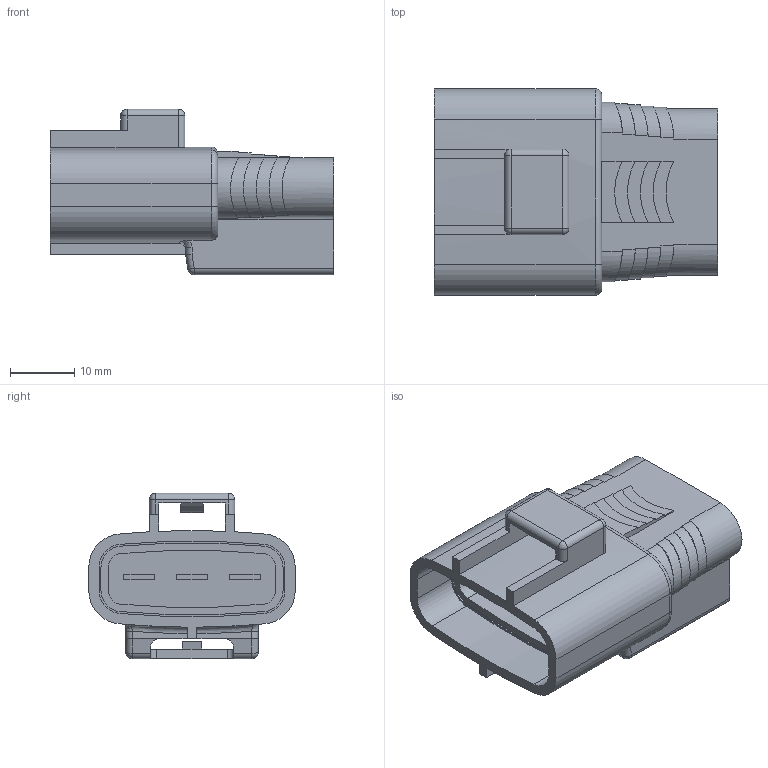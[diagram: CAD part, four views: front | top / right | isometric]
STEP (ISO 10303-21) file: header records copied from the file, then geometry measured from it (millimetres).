
FILE_DESCRIPTION(('CATIA V5 STEP Exchange'),'2;1');
FILE_NAME('N:\C-DAM_MyDesk\ENV\900093\6188-0129.stp','2013-10-08T08:38:17+00:00',('none'),('none'),'CATIA Version 5 Release 20 SP 4 (IN-10)','CATIA V5 STEP AP203','none');
FILE_SCHEMA(('CONFIG_CONTROL_DESIGN'));
Length unit declared in the file: millimetre
Products named in the file (1): 6188-0129
Bounding box: 44 x 32.1 x 25.7 mm (x, y, z)
Volume: 14845.6 mm3; surface area: 6992.7 mm2
Topology: 1 solids, 1 shells, 196 faces, 539 edges, 344 vertices
Faces by surface type: plane 91, cylinder 86, torus 9, sphere 6, bspline 4
Entity records: 6338 total; most frequent: CARTESIAN_POINT 1607, ORIENTED_EDGE 1066, DIRECTION 798, EDGE_CURVE 533, VERTEX_POINT 344, VECTOR 320, LINE 320, AXIS2_PLACEMENT_3D 312
